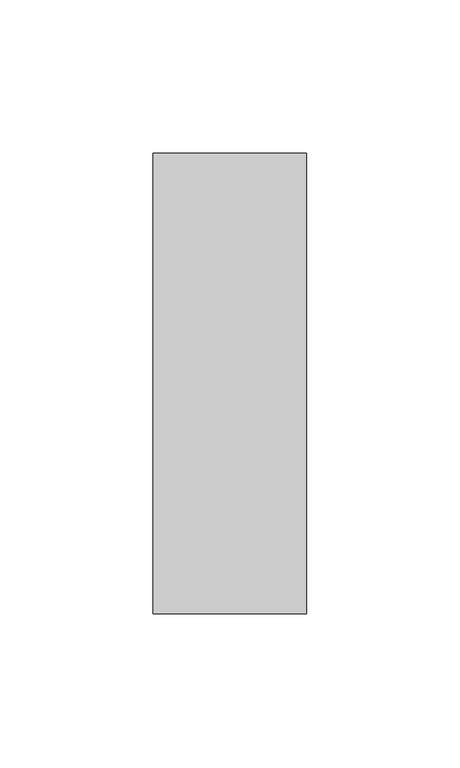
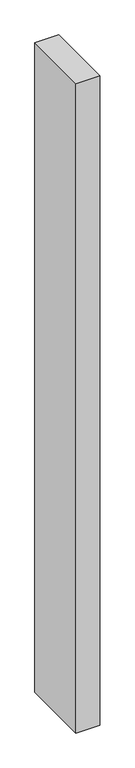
"""IFC4 building model written with IfcOpenShell, lengths in millimetres: member geometry, Прямоугольный импост : 50 x 150 мм."""

from ifc_helpers import new_model, si_unit, frame, origin, place, context, project, spatial, polyline, outline, extrude, source, transform, mapped, element, save


def member_cd4f5ed4(model_context):
    return source(origin(), model_context, "Body", "SweptSolid", [
        extrude(outline(polyline([(25.0, 75.0), (25.0, -75.0), (-25.0, -75.0), (-25.0, 75.0), (25.0, 75.0)])), frame((0.0, 0.0, -1447.6038564), z_axis=(0.0, 0.0, 1.0), x_axis=(1.0, 0.0, 0.0)), (0.0, 0.0, 1.0), 1447.6038564),
    ])


if __name__ == "__main__":
    model = new_model("IFC4")
    model_context = context("Model", 3, world=origin())
    ifc_project = project(units=[si_unit("LENGTHUNIT", "METRE", prefix="MILLI")], contexts=[model_context])
    site = spatial("IfcSite", under=ifc_project)
    building = spatial("IfcBuilding", under=site)
    placement = place(None, origin())
    member_shape = member_cd4f5ed4(model_context)
    element("IfcMember", 1, ObjectType="Прямоугольный импост : 50 x 150 мм", at=placement, inside=building, context=model_context, shape_type="MappedRepresentation", body=[
        mapped(member_shape, transform((0.0, 0.0, 0.0), x_axis=(1.0, 0.0, 0.0), y_axis=(0.0, 1.0, 0.0), z_axis=(0.0, 0.0, 1.0))),
    ])
    save(model, "model.ifc")
